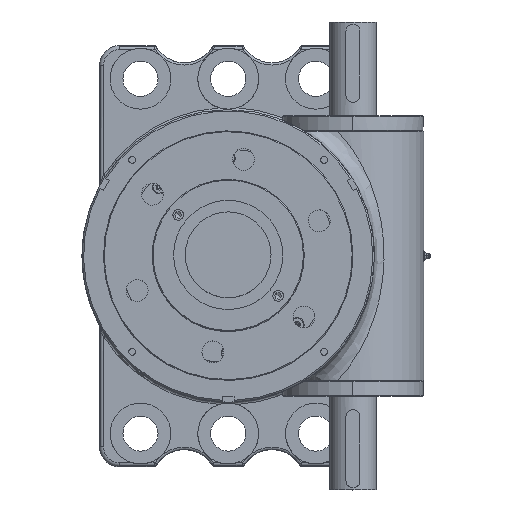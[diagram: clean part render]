
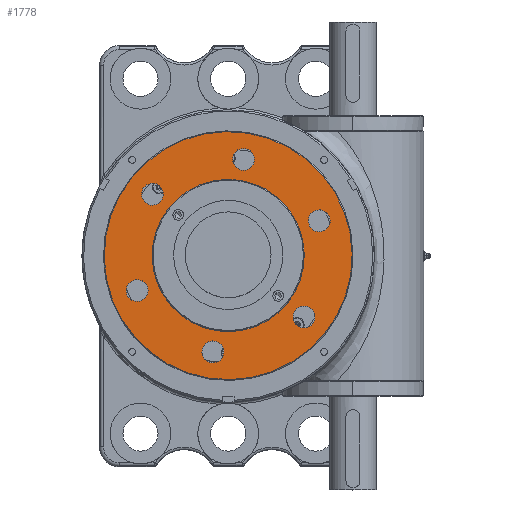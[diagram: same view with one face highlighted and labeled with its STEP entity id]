
A CAD part, top view. The second image highlights one B-rep face of the part: STEP entity #1778.
In plain terms, the highlighted planar face has unit normal (0, 0, 1).
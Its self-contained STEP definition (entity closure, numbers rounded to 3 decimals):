
#1778=ADVANCED_FACE('',(#4682,#4683,#4684,#4685,#4686,#4687,#4688,#4689),#4690,.F.);
#4682=FACE_OUTER_BOUND('',#8158,.T.);
#4683=FACE_BOUND('',#8159,.T.);
#4684=FACE_BOUND('',#8160,.T.);
#4685=FACE_BOUND('',#8161,.T.);
#4686=FACE_BOUND('',#8162,.T.);
#4687=FACE_BOUND('',#8163,.T.);
#4688=FACE_BOUND('',#8164,.T.);
#4689=FACE_BOUND('',#8165,.T.);
#4690=PLANE('',#8166);
#8158=EDGE_LOOP('',(#18726,#18727));
#8159=EDGE_LOOP('',(#18728,#18729));
#8160=EDGE_LOOP('',(#18730,#18731));
#8161=EDGE_LOOP('',(#18732,#18733));
#8162=EDGE_LOOP('',(#18734,#18735));
#8163=EDGE_LOOP('',(#18736,#18737));
#8164=EDGE_LOOP('',(#18738,#18739));
#8165=EDGE_LOOP('',(#18740,#18741));
#8166=AXIS2_PLACEMENT_3D('',#18742,#18743,#18744);
#18726=ORIENTED_EDGE('',*,*,#22357,.F.);
#18727=ORIENTED_EDGE('',*,*,#22265,.F.);
#18728=ORIENTED_EDGE('',*,*,#22232,.F.);
#18729=ORIENTED_EDGE('',*,*,#22358,.F.);
#18730=ORIENTED_EDGE('',*,*,#22234,.T.);
#18731=ORIENTED_EDGE('',*,*,#22359,.T.);
#18732=ORIENTED_EDGE('',*,*,#22238,.T.);
#18733=ORIENTED_EDGE('',*,*,#22360,.T.);
#18734=ORIENTED_EDGE('',*,*,#22242,.T.);
#18735=ORIENTED_EDGE('',*,*,#22361,.T.);
#18736=ORIENTED_EDGE('',*,*,#22246,.T.);
#18737=ORIENTED_EDGE('',*,*,#22362,.T.);
#18738=ORIENTED_EDGE('',*,*,#22250,.T.);
#18739=ORIENTED_EDGE('',*,*,#22363,.T.);
#18740=ORIENTED_EDGE('',*,*,#22254,.T.);
#18741=ORIENTED_EDGE('',*,*,#22364,.T.);
#18742=CARTESIAN_POINT('',(0.,0.,424.));
#18743=DIRECTION('',(0.,0.,-1.0));
#18744=DIRECTION('',(0.707,-0.707,0.));
#22232=EDGE_CURVE('',#27848,#27844,#27850,.T.);
#22234=EDGE_CURVE('',#27854,#27851,#27855,.T.);
#22238=EDGE_CURVE('',#27862,#27859,#27863,.T.);
#22242=EDGE_CURVE('',#27870,#27867,#27871,.T.);
#22246=EDGE_CURVE('',#27878,#27875,#27879,.T.);
#22250=EDGE_CURVE('',#27886,#27883,#27887,.T.);
#22254=EDGE_CURVE('',#27894,#27891,#27895,.T.);
#22265=EDGE_CURVE('',#27912,#27915,#27916,.T.);
#22357=EDGE_CURVE('',#27915,#27912,#28063,.T.);
#22358=EDGE_CURVE('',#27844,#27848,#28064,.T.);
#22359=EDGE_CURVE('',#27851,#27854,#28065,.T.);
#22360=EDGE_CURVE('',#27859,#27862,#28066,.T.);
#22361=EDGE_CURVE('',#27867,#27870,#28067,.T.);
#22362=EDGE_CURVE('',#27875,#27878,#28068,.T.);
#22363=EDGE_CURVE('',#27883,#27886,#28069,.T.);
#22364=EDGE_CURVE('',#27891,#27894,#28070,.T.);
#27844=VERTEX_POINT('',#39493);
#27848=VERTEX_POINT('',#39498);
#27850=CIRCLE('',#39501,97.5);
#27851=VERTEX_POINT('',#39502);
#27854=VERTEX_POINT('',#39506);
#27855=CIRCLE('',#39507,14.);
#27859=VERTEX_POINT('',#39512);
#27862=VERTEX_POINT('',#39516);
#27863=CIRCLE('',#39517,14.);
#27867=VERTEX_POINT('',#39522);
#27870=VERTEX_POINT('',#39526);
#27871=CIRCLE('',#39527,14.);
#27875=VERTEX_POINT('',#39532);
#27878=VERTEX_POINT('',#39536);
#27879=CIRCLE('',#39537,14.);
#27883=VERTEX_POINT('',#39542);
#27886=VERTEX_POINT('',#39546);
#27887=CIRCLE('',#39547,14.);
#27891=VERTEX_POINT('',#39552);
#27894=VERTEX_POINT('',#39556);
#27895=CIRCLE('',#39557,14.);
#27912=VERTEX_POINT('',#39579);
#27915=VERTEX_POINT('',#39583);
#27916=CIRCLE('',#39584,159.);
#28063=CIRCLE('',#39906,159.);
#28064=CIRCLE('',#39907,97.5);
#28065=CIRCLE('',#39908,14.);
#28066=CIRCLE('',#39909,14.);
#28067=CIRCLE('',#39910,14.);
#28068=CIRCLE('',#39911,14.);
#28069=CIRCLE('',#39912,14.);
#28070=CIRCLE('',#39913,14.);
#39493=CARTESIAN_POINT('',(61.392,75.745,424.));
#39498=CARTESIAN_POINT('',(-61.392,-75.745,424.));
#39501=AXIS2_PLACEMENT_3D('',#45757,#45758,#45759);
#39502=CARTESIAN_POINT('',(88.293,-89.584,424.));
#39506=CARTESIAN_POINT('',(105.924,-67.832,424.));
#39507=AXIS2_PLACEMENT_3D('',#45761,#45762,#45763);
#39512=CARTESIAN_POINT('',(121.729,31.672,424.));
#39516=CARTESIAN_POINT('',(111.706,57.817,424.));
#39517=AXIS2_PLACEMENT_3D('',#45769,#45770,#45771);
#39522=CARTESIAN_POINT('',(-33.436,-121.256,424.));
#39526=CARTESIAN_POINT('',(-5.782,-125.649,424.));
#39527=AXIS2_PLACEMENT_3D('',#45777,#45778,#45779);
#39532=CARTESIAN_POINT('',(-121.729,-31.672,424.));
#39536=CARTESIAN_POINT('',(-111.706,-57.817,424.));
#39537=AXIS2_PLACEMENT_3D('',#45785,#45786,#45787);
#39542=CARTESIAN_POINT('',(-88.293,89.584,424.));
#39546=CARTESIAN_POINT('',(-105.924,67.832,424.));
#39547=AXIS2_PLACEMENT_3D('',#45793,#45794,#45795);
#39552=CARTESIAN_POINT('',(33.436,121.256,424.));
#39556=CARTESIAN_POINT('',(5.782,125.649,424.));
#39557=AXIS2_PLACEMENT_3D('',#45801,#45802,#45803);
#39579=CARTESIAN_POINT('',(100.117,123.522,424.));
#39583=CARTESIAN_POINT('',(-100.117,-123.522,424.));
#39584=AXIS2_PLACEMENT_3D('',#45822,#45823,#45824);
#39906=AXIS2_PLACEMENT_3D('',#45964,#45965,#45966);
#39907=AXIS2_PLACEMENT_3D('',#45967,#45968,#45969);
#39908=AXIS2_PLACEMENT_3D('',#45970,#45971,#45972);
#39909=AXIS2_PLACEMENT_3D('',#45973,#45974,#45975);
#39910=AXIS2_PLACEMENT_3D('',#45976,#45977,#45978);
#39911=AXIS2_PLACEMENT_3D('',#45979,#45980,#45981);
#39912=AXIS2_PLACEMENT_3D('',#45982,#45983,#45984);
#39913=AXIS2_PLACEMENT_3D('',#45985,#45986,#45987);
#45757=CARTESIAN_POINT('',(0.,0.,424.));
#45758=DIRECTION('',(0.,0.,1.0));
#45759=DIRECTION('',(0.63,0.777,0.));
#45761=CARTESIAN_POINT('',(97.108,-78.708,424.));
#45762=DIRECTION('',(0.,0.,-1.0));
#45763=DIRECTION('',(-0.63,-0.777,0.));
#45769=CARTESIAN_POINT('',(116.717,44.744,424.));
#45770=DIRECTION('',(0.,0.,-1.0));
#45771=DIRECTION('',(0.358,-0.934,0.));
#45777=CARTESIAN_POINT('',(-19.609,-123.452,424.));
#45778=DIRECTION('',(0.,0.,-1.0));
#45779=DIRECTION('',(-0.988,0.157,0.));
#45785=CARTESIAN_POINT('',(-116.717,-44.744,424.));
#45786=DIRECTION('',(0.,0.,-1.0));
#45787=DIRECTION('',(-0.358,0.934,0.));
#45793=CARTESIAN_POINT('',(-97.108,78.708,424.));
#45794=DIRECTION('',(0.,0.,-1.0));
#45795=DIRECTION('',(0.63,0.777,0.));
#45801=CARTESIAN_POINT('',(19.609,123.452,424.));
#45802=DIRECTION('',(0.,0.,-1.0));
#45803=DIRECTION('',(0.988,-0.157,0.));
#45822=CARTESIAN_POINT('',(0.,0.,424.));
#45823=DIRECTION('',(0.,0.,-1.0));
#45824=DIRECTION('',(0.63,0.777,0.));
#45964=CARTESIAN_POINT('',(0.,0.,424.));
#45965=DIRECTION('',(0.,0.,-1.0));
#45966=DIRECTION('',(0.63,0.777,0.));
#45967=CARTESIAN_POINT('',(0.,0.,424.));
#45968=DIRECTION('',(0.,0.,1.0));
#45969=DIRECTION('',(0.63,0.777,0.));
#45970=CARTESIAN_POINT('',(97.108,-78.708,424.));
#45971=DIRECTION('',(0.,0.,-1.0));
#45972=DIRECTION('',(-0.63,-0.777,0.));
#45973=CARTESIAN_POINT('',(116.717,44.744,424.));
#45974=DIRECTION('',(0.,0.,-1.0));
#45975=DIRECTION('',(0.358,-0.934,0.));
#45976=CARTESIAN_POINT('',(-19.609,-123.452,424.));
#45977=DIRECTION('',(0.,0.,-1.0));
#45978=DIRECTION('',(-0.988,0.157,0.));
#45979=CARTESIAN_POINT('',(-116.717,-44.744,424.));
#45980=DIRECTION('',(0.,0.,-1.0));
#45981=DIRECTION('',(-0.358,0.934,0.));
#45982=CARTESIAN_POINT('',(-97.108,78.708,424.));
#45983=DIRECTION('',(0.,0.,-1.0));
#45984=DIRECTION('',(0.63,0.777,0.));
#45985=CARTESIAN_POINT('',(19.609,123.452,424.));
#45986=DIRECTION('',(0.,0.,-1.0));
#45987=DIRECTION('',(0.988,-0.157,0.));
